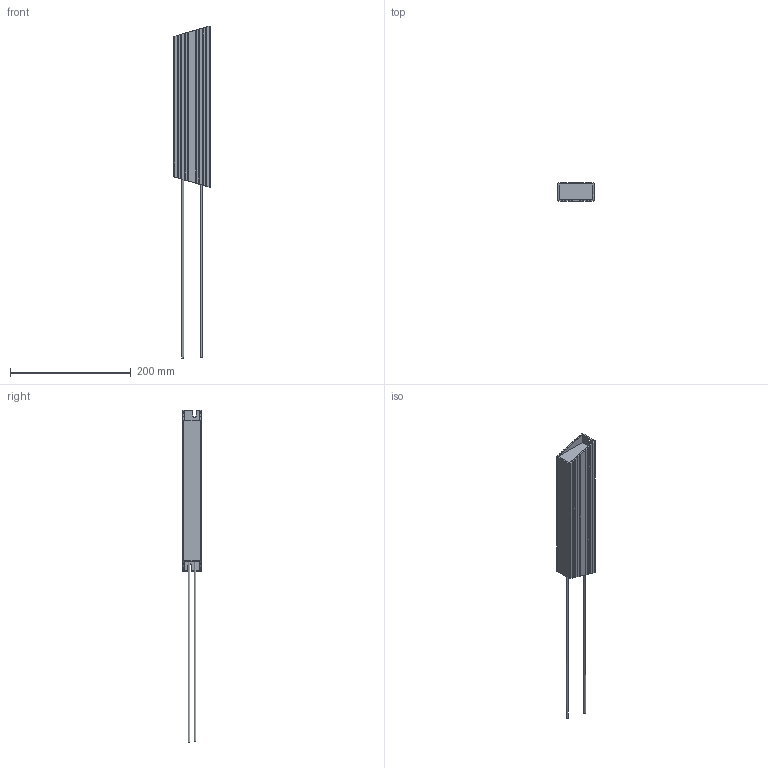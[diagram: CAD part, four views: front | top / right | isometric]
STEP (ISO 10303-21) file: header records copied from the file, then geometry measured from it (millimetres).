
FILE_DESCRIPTION(/* description */ (''),/* implementation_level */ '2;1');
FILE_NAME(/* name */ 'C:\_Vault\Dati\CATALOGO\RFP\UL2014-Def\RFP V 400.stp',/* time_stamp */ '2014-03-24T16:08:26+01:00',/* author */ ('stefano'),/* organization */ (''),/* preprocessor_version */ 'ST-DEVELOPER v15.2',/* originating_system */ 'Autodesk Inventor 2014',/* authorisation */ '');
FILE_SCHEMA (('AUTOMOTIVE_DESIGN { 1 0 10303 214 3 1 1 }'));
Length unit declared in the file: millimetre
Products named in the file (1): RFP V 400
Bounding box: 60 x 31 x 549.8 mm (x, y, z)
Volume: 216904.6 mm3; surface area: 268640.8 mm2
Topology: 3 solids, 4 shells, 524 faces, 1564 edges, 975 vertices
Faces by surface type: plane 301, cylinder 149, bspline 42, torus 20, cone 8, sphere 4
Full cylindrical faces by diameter (mm): 1 x23, 1.5 x12, 1.8 x8, 1.95 x2, 3.1 x6, 3.2 x4, 3.4 x2
Entity records: 20046 total; most frequent: CARTESIAN_POINT 5897, ORIENTED_EDGE 2880, DIRECTION 2694, EDGE_CURVE 1420, VERTEX_POINT 938, LINE 932, VECTOR 932, AXIS2_PLACEMENT_3D 881
